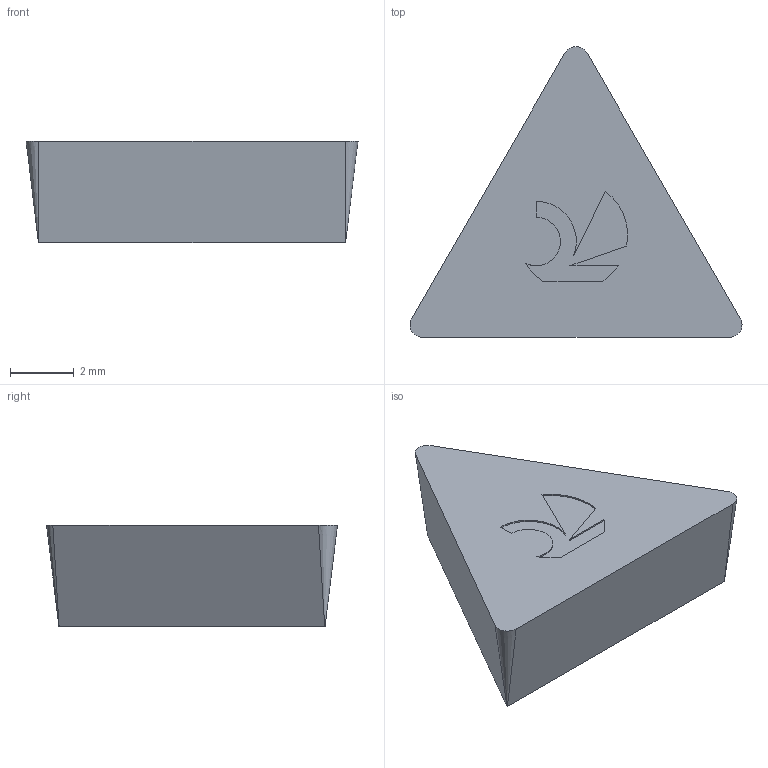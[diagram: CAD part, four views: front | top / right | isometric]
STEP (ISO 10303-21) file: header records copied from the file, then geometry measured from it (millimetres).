
FILE_DESCRIPTION(('no description'),'unknown implementation level');
FILE_NAME('solid4WBXFYoh8S4gHsdyQ0poDzQiaJo_1.STP',' ',('CIMSOURCE GmbH'),('CADClick - KiM GmbH - www.kimweb.de'),'unknown preprocess','ACIS','unknown authorization');
FILE_SCHEMA(('automotive_design'));
Length unit declared in the file: millimetre
Products named in the file (1): CUT
Bounding box: 10.42 x 9.13 x 3.17 mm (x, y, z)
Volume: 146.2 mm3; surface area: 189.5 mm2
Topology: 1 solids, 1 shells, 20 faces, 51 edges, 34 vertices
Faces by surface type: plane 11, cylinder 6, cone 3
Entity records: 1232 total; most frequent: DIRECTION 115, CARTESIAN_POINT 108, STYLED_ITEM 106, PRESENTATION_STYLE_ASSIGNMENT 106, COLOUR_RGB 106, ORIENTED_EDGE 102, EDGE_CURVE 51, CURVE_STYLE 51
